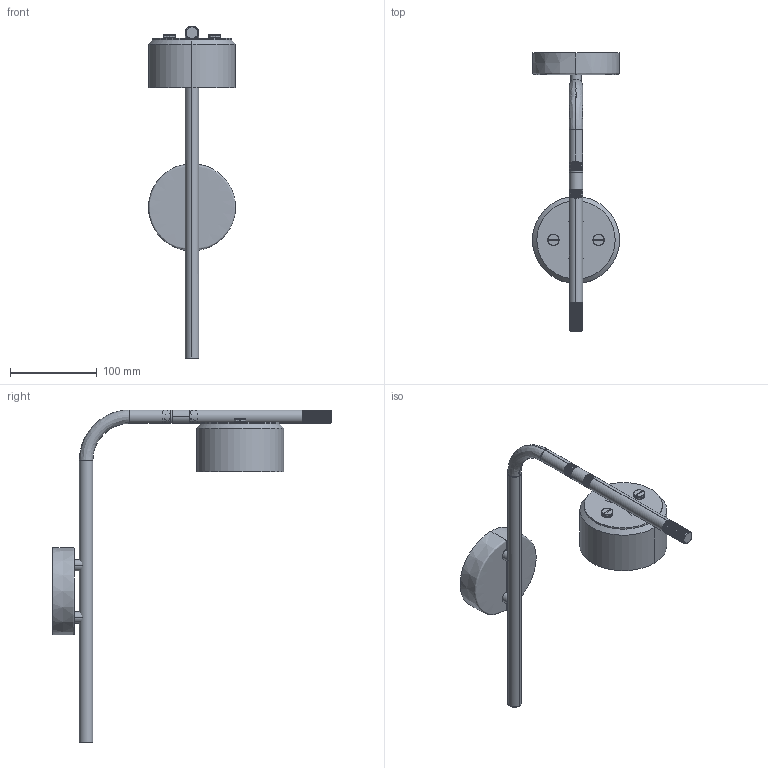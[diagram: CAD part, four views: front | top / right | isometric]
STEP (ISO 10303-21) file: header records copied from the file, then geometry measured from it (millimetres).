
FILE_DESCRIPTION (( 'STEP AP214' ), '1' );
FILE_NAME ('HOREO_A1367.STEP', '2026-06-16T08:40:28', ( '' ), ( '' ), 'SwSTEP 2.0', 'SolidWorks 2023', '' );
FILE_SCHEMA (( 'AUTOMOTIVE_DESIGN' ));
Length unit declared in the file: millimetre
Products named in the file (1): HOREO_A1367
Bounding box: 100 x 320.5 x 381.75 mm (x, y, z)
Volume: 479134.3 mm3; surface area: 171081.8 mm2
Topology: 15 solids, 15 shells, 659 faces, 1892 edges, 1247 vertices
Faces by surface type: bspline 371, plane 288
Entity records: 43560 total; most frequent: CARTESIAN_POINT 31695, ORIENTED_EDGE 3744, EDGE_CURVE 1872, B_SPLINE_CURVE_WITH_KNOTS 1487, VERTEX_POINT 1247, EDGE_LOOP 673, FACE_OUTER_BOUND 659, ADVANCED_FACE 659
